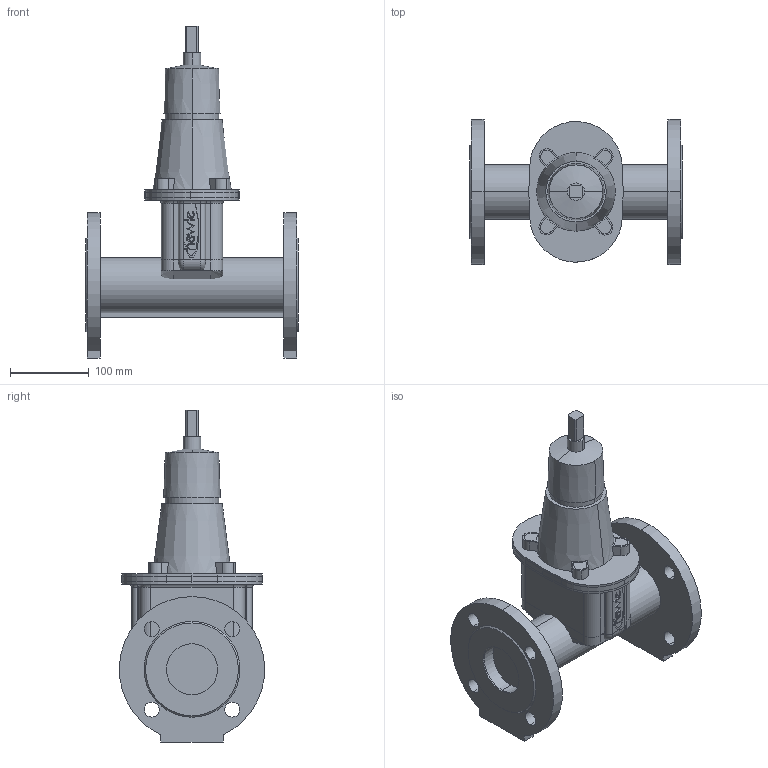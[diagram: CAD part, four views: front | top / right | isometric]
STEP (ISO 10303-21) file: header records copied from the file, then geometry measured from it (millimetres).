
FILE_DESCRIPTION(('STEP AP214'),'1');
FILE_NAME('S:/EK/USER/CAT6/3DHomepage/4700E2/4700E2-PN16-DN65.STP','2012-04-23T12:18:09',(' '),(' '),'Spatial InterOp 3D',' ',' ');
FILE_SCHEMA(('automotive_design'));
Length unit declared in the file: millimetre
Products named in the file (60): 3D-Objekt; 1; 2
Bounding box: 270 x 184.72 x 422.5 mm (x, y, z)
Volume: 3741982.8 mm3; surface area: 541030.8 mm2
Topology: 60 solids, 60 shells, 508 faces, 1158 edges, 772 vertices
Faces by surface type: plane 292, cylinder 190, torus 12, cone 10, bspline 4
Entity records: 19957 total; most frequent: DIRECTION 2726, CARTESIAN_POINT 2582, ORIENTED_EDGE 2316, EDGE_CURVE 1158, AXIS2_PLACEMENT_3D 1012, VERTEX_POINT 772, LINE 702, VECTOR 702
